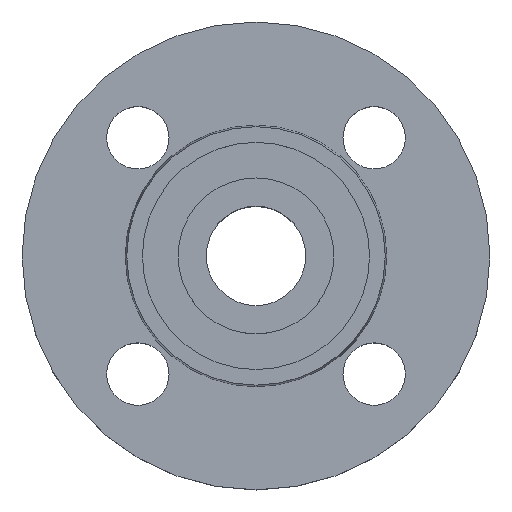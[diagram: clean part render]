
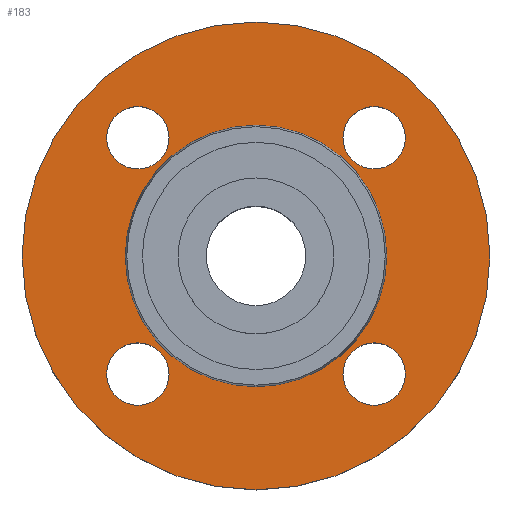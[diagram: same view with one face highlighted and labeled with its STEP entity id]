
A CAD part, top view. The second image highlights one B-rep face of the part: STEP entity #183.
In plain terms, the highlighted planar face has unit normal (0, 0, 1).
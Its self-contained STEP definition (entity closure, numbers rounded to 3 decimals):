
#5 = EDGE_LOOP ( 'NONE', ( #689, #693 ) ) ;
#14 = CARTESIAN_POINT ( 'NONE',  ( 26.517, -26.517, -2. ) ) ;
#22 = DIRECTION ( 'NONE',  ( 0., 0., -1. ) ) ;
#31 = AXIS2_PLACEMENT_3D ( 'NONE', #185, #177, #176 ) ;
#35 = DIRECTION ( 'NONE',  ( 1., 0., 0. ) ) ;
#51 = CARTESIAN_POINT ( 'NONE',  ( 29.353, 0., -2. ) ) ;
#63 = CIRCLE ( 'NONE', #616, 7. ) ;
#65 = CIRCLE ( 'NONE', #975, 7. ) ;
#72 = CARTESIAN_POINT ( 'NONE',  ( 52.5, 0., -2. ) ) ;
#78 = CARTESIAN_POINT ( 'NONE',  ( 19.517, 26.517, -2. ) ) ;
#81 = DIRECTION ( 'NONE',  ( 0., 0., -1. ) ) ;
#84 = CIRCLE ( 'NONE', #267, 52.5 ) ;
#95 = CARTESIAN_POINT ( 'NONE',  ( -26.517, -26.517, -2. ) ) ;
#117 = AXIS2_PLACEMENT_3D ( 'NONE', #510, #509, #507 ) ;
#125 = EDGE_CURVE ( 'NONE', #134, #553, #863, .T. ) ;
#134 = VERTEX_POINT ( 'NONE', #773 ) ;
#157 = EDGE_CURVE ( 'NONE', #288, #442, #84, .T. ) ;
#176 = DIRECTION ( 'NONE',  ( 1., 0., 0. ) ) ;
#177 = DIRECTION ( 'NONE',  ( 0., 0., -1. ) ) ;
#183 = ADVANCED_FACE ( 'NONE', ( #837, #838, #839, #840, #841, #846 ), #848, .T. ) ;
#185 = CARTESIAN_POINT ( 'NONE',  ( -26.517, 26.517, -2. ) ) ;
#197 = AXIS2_PLACEMENT_3D ( 'NONE', #249, #248, #246 ) ;
#201 = EDGE_CURVE ( 'NONE', #686, #458, #63, .T. ) ;
#216 = EDGE_CURVE ( 'NONE', #442, #288, #927, .T. ) ;
#225 = CIRCLE ( 'NONE', #31, 7. ) ;
#229 = CARTESIAN_POINT ( 'NONE',  ( -19.517, -26.517, -2. ) ) ;
#236 = EDGE_CURVE ( 'NONE', #612, #434, #947, .T. ) ;
#246 = DIRECTION ( 'NONE',  ( -1., 0., 0. ) ) ;
#248 = DIRECTION ( 'NONE',  ( 0., 0., -1. ) ) ;
#249 = CARTESIAN_POINT ( 'NONE',  ( 0., 0., -2. ) ) ;
#255 = CARTESIAN_POINT ( 'NONE',  ( -19.517, 26.517, -2. ) ) ;
#257 = DIRECTION ( 'NONE',  ( 1., 0., 0. ) ) ;
#258 = DIRECTION ( 'NONE',  ( 0., 0., -1. ) ) ;
#259 = CARTESIAN_POINT ( 'NONE',  ( -26.517, 26.517, -2. ) ) ;
#267 = AXIS2_PLACEMENT_3D ( 'NONE', #810, #811, #814 ) ;
#268 = CARTESIAN_POINT ( 'NONE',  ( 33.517, 26.517, -2. ) ) ;
#273 = CIRCLE ( 'NONE', #370, 29.353 ) ;
#282 = CARTESIAN_POINT ( 'NONE',  ( -33.517, -26.517, -2. ) ) ;
#288 = VERTEX_POINT ( 'NONE', #942 ) ;
#294 = EDGE_CURVE ( 'NONE', #553, #134, #935, .T. ) ;
#298 = EDGE_LOOP ( 'NONE', ( #681, #685 ) ) ;
#352 = CARTESIAN_POINT ( 'NONE',  ( 0., 0., -2. ) ) ;
#355 = CIRCLE ( 'NONE', #965, 7. ) ;
#368 = EDGE_LOOP ( 'NONE', ( #703, #706 ) ) ;
#370 = AXIS2_PLACEMENT_3D ( 'NONE', #352, #473, #478 ) ;
#382 = CARTESIAN_POINT ( 'NONE',  ( -29.353, 0., -2. ) ) ;
#386 = AXIS2_PLACEMENT_3D ( 'NONE', #883, #891, #892 ) ;
#397 = EDGE_CURVE ( 'NONE', #437, #455, #273, .T. ) ;
#407 = CIRCLE ( 'NONE', #117, 7. ) ;
#430 = VERTEX_POINT ( 'NONE', #931 ) ;
#434 = VERTEX_POINT ( 'NONE', #78 ) ;
#437 = VERTEX_POINT ( 'NONE', #51 ) ;
#442 = VERTEX_POINT ( 'NONE', #72 ) ;
#455 = VERTEX_POINT ( 'NONE', #382 ) ;
#458 = VERTEX_POINT ( 'NONE', #282 ) ;
#473 = DIRECTION ( 'NONE',  ( 0., 0., -1. ) ) ;
#478 = DIRECTION ( 'NONE',  ( -1., 0., 0. ) ) ;
#504 = CARTESIAN_POINT ( 'NONE',  ( 33.517, -26.517, -2. ) ) ;
#507 = DIRECTION ( 'NONE',  ( 1., 0., 0. ) ) ;
#509 = DIRECTION ( 'NONE',  ( 0., 0., -1. ) ) ;
#510 = CARTESIAN_POINT ( 'NONE',  ( 26.517, 26.517, -2. ) ) ;
#521 = AXIS2_PLACEMENT_3D ( 'NONE', #763, #761, #771 ) ;
#545 = EDGE_CURVE ( 'NONE', #434, #612, #407, .T. ) ;
#553 = VERTEX_POINT ( 'NONE', #504 ) ;
#555 = EDGE_LOOP ( 'NONE', ( #694, #696 ) ) ;
#563 = AXIS2_PLACEMENT_3D ( 'NONE', #904, #905, #907 ) ;
#581 = EDGE_LOOP ( 'NONE', ( #697, #702 ) ) ;
#586 = CIRCLE ( 'NONE', #197, 29.353 ) ;
#612 = VERTEX_POINT ( 'NONE', #268 ) ;
#616 = AXIS2_PLACEMENT_3D ( 'NONE', #864, #868, #869 ) ;
#646 = EDGE_CURVE ( 'NONE', #430, #652, #355, .T. ) ;
#652 = VERTEX_POINT ( 'NONE', #255 ) ;
#666 = EDGE_CURVE ( 'NONE', #455, #437, #586, .T. ) ;
#681 = ORIENTED_EDGE ( 'NONE', *, *, #294, .T. ) ;
#685 = ORIENTED_EDGE ( 'NONE', *, *, #125, .T. ) ;
#686 = VERTEX_POINT ( 'NONE', #229 ) ;
#689 = ORIENTED_EDGE ( 'NONE', *, *, #201, .T. ) ;
#693 = ORIENTED_EDGE ( 'NONE', *, *, #830, .T. ) ;
#694 = ORIENTED_EDGE ( 'NONE', *, *, #746, .T. ) ;
#696 = ORIENTED_EDGE ( 'NONE', *, *, #646, .T. ) ;
#697 = ORIENTED_EDGE ( 'NONE', *, *, #236, .T. ) ;
#702 = ORIENTED_EDGE ( 'NONE', *, *, #545, .T. ) ;
#703 = ORIENTED_EDGE ( 'NONE', *, *, #666, .T. ) ;
#706 = ORIENTED_EDGE ( 'NONE', *, *, #397, .T. ) ;
#707 = ORIENTED_EDGE ( 'NONE', *, *, #216, .F. ) ;
#711 = ORIENTED_EDGE ( 'NONE', *, *, #157, .F. ) ;
#725 = EDGE_LOOP ( 'NONE', ( #707, #711 ) ) ;
#746 = EDGE_CURVE ( 'NONE', #652, #430, #225, .T. ) ;
#761 = DIRECTION ( 'NONE',  ( 0., 0., -1. ) ) ;
#763 = CARTESIAN_POINT ( 'NONE',  ( 26.517, -26.517, -2. ) ) ;
#771 = DIRECTION ( 'NONE',  ( 1., 0., 0. ) ) ;
#773 = CARTESIAN_POINT ( 'NONE',  ( 19.517, -26.517, -2. ) ) ;
#810 = CARTESIAN_POINT ( 'NONE',  ( 0., 0., -2. ) ) ;
#811 = DIRECTION ( 'NONE',  ( 0., 0., -1. ) ) ;
#814 = DIRECTION ( 'NONE',  ( -1., 0., 0. ) ) ;
#830 = EDGE_CURVE ( 'NONE', #458, #686, #65, .T. ) ;
#837 = FACE_BOUND ( 'NONE', #298, .T. ) ;
#838 = FACE_BOUND ( 'NONE', #5, .T. ) ;
#839 = FACE_BOUND ( 'NONE', #555, .T. ) ;
#840 = FACE_BOUND ( 'NONE', #581, .T. ) ;
#841 = FACE_BOUND ( 'NONE', #368, .T. ) ;
#846 = FACE_OUTER_BOUND ( 'NONE', #725, .T. ) ;
#848 = PLANE ( 'NONE',  #955 ) ;
#849 = CARTESIAN_POINT ( 'NONE',  ( 29.353, 0., -2. ) ) ;
#853 = DIRECTION ( 'NONE',  ( 0., 0., 1. ) ) ;
#854 = DIRECTION ( 'NONE',  ( 1., 0., 0. ) ) ;
#863 = CIRCLE ( 'NONE', #521, 7. ) ;
#864 = CARTESIAN_POINT ( 'NONE',  ( -26.517, -26.517, -2. ) ) ;
#868 = DIRECTION ( 'NONE',  ( 0., 0., -1. ) ) ;
#869 = DIRECTION ( 'NONE',  ( 1., 0., 0. ) ) ;
#883 = CARTESIAN_POINT ( 'NONE',  ( 0., 0., -2. ) ) ;
#891 = DIRECTION ( 'NONE',  ( 0., 0., -1. ) ) ;
#892 = DIRECTION ( 'NONE',  ( -1., 0., 0. ) ) ;
#904 = CARTESIAN_POINT ( 'NONE',  ( 26.517, 26.517, -2. ) ) ;
#905 = DIRECTION ( 'NONE',  ( 0., 0., -1. ) ) ;
#907 = DIRECTION ( 'NONE',  ( 1., 0., 0. ) ) ;
#916 = DIRECTION ( 'NONE',  ( 1., 0., 0. ) ) ;
#927 = CIRCLE ( 'NONE', #386, 52.5 ) ;
#931 = CARTESIAN_POINT ( 'NONE',  ( -33.517, 26.517, -2. ) ) ;
#935 = CIRCLE ( 'NONE', #978, 7. ) ;
#942 = CARTESIAN_POINT ( 'NONE',  ( -52.5, 0., -2. ) ) ;
#947 = CIRCLE ( 'NONE', #563, 7. ) ;
#955 = AXIS2_PLACEMENT_3D ( 'NONE', #849, #853, #854 ) ;
#965 = AXIS2_PLACEMENT_3D ( 'NONE', #259, #258, #257 ) ;
#975 = AXIS2_PLACEMENT_3D ( 'NONE', #95, #81, #35 ) ;
#978 = AXIS2_PLACEMENT_3D ( 'NONE', #14, #22, #916 ) ;
